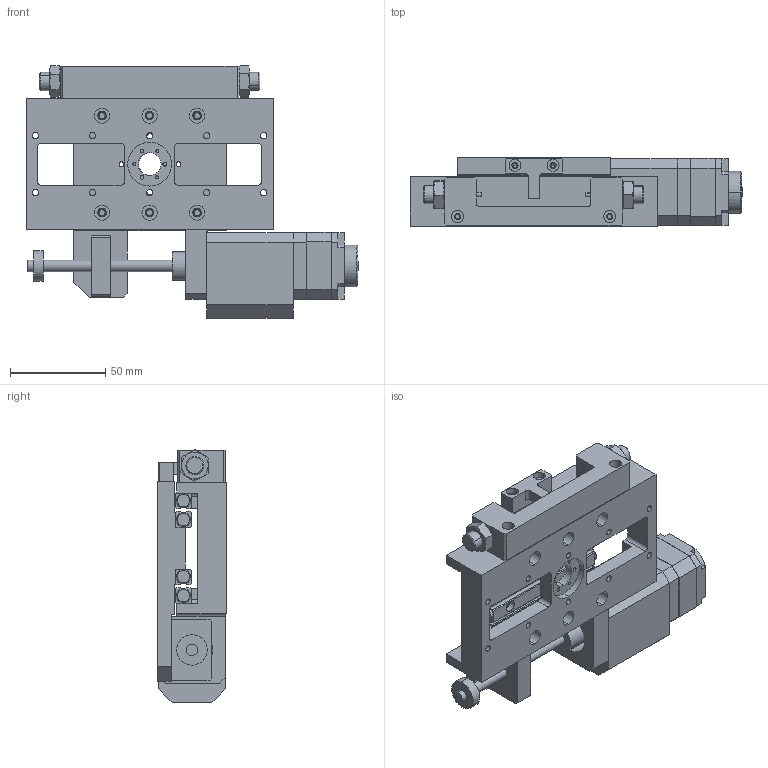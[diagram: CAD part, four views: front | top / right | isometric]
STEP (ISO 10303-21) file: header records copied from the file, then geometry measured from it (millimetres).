
FILE_DESCRIPTION (( 'STEP AP214' ), '1' );
FILE_NAME ('VSM17-X-050-HR-LS STEP.STEP', '2022-12-15T12:36:44', ( '' ), ( '' ), 'SwSTEP 2.0', 'SolidWorks 2022', '' );
FILE_SCHEMA (( 'AUTOMOTIVE_DESIGN' ));
Length unit declared in the file: millimetre
Products named in the file (12): Simplified Leadscrew Nut; Simplified Limit Switch; Simplified Drivetrain_VSM17-X-50; 3-8 UNF Nut; VSM17-X-050 Limit switch mounting block; Simplified VSM17-X-050 Base V2; Simplified VSM17-X LS Actuator; VSM17-X-050-HR-LS STEP; Simplified Motor_H; Simplified Bearing 050; Simplified Gearbox; Simplified VSM17-X-050 Carriage
Assembly tree (16 placements, depth 2):
  VSM17-X-050-HR-LS STEP
    Simplified VSM17-X-050 Base V2
    Simplified Bearing 050  x4
    Simplified Motor_H
    Simplified Drivetrain_VSM17-X-50
    Simplified VSM17-X-050 Carriage
    Simplified Leadscrew Nut
    VSM17-X-050 Limit switch mounting block
    Simplified VSM17-X LS Actuator
    Simplified Limit Switch  x2
    3-8 UNF Nut  x2
    Simplified Gearbox
Bounding box: 174.6 x 36 x 132.75 mm (x, y, z)
Volume: 332071.4 mm3; surface area: 105987 mm2
Topology: 16 solids, 16 shells, 697 faces, 1750 edges, 1124 vertices
Faces by surface type: plane 307, cylinder 298, cone 72, torus 20
Entity records: 17340 total; most frequent: CARTESIAN_POINT 2939, DIRECTION 2833, ORIENTED_EDGE 2564, EDGE_CURVE 1282, AXIS2_PLACEMENT_3D 1047, VERTEX_POINT 841, VECTOR 739, LINE 739
